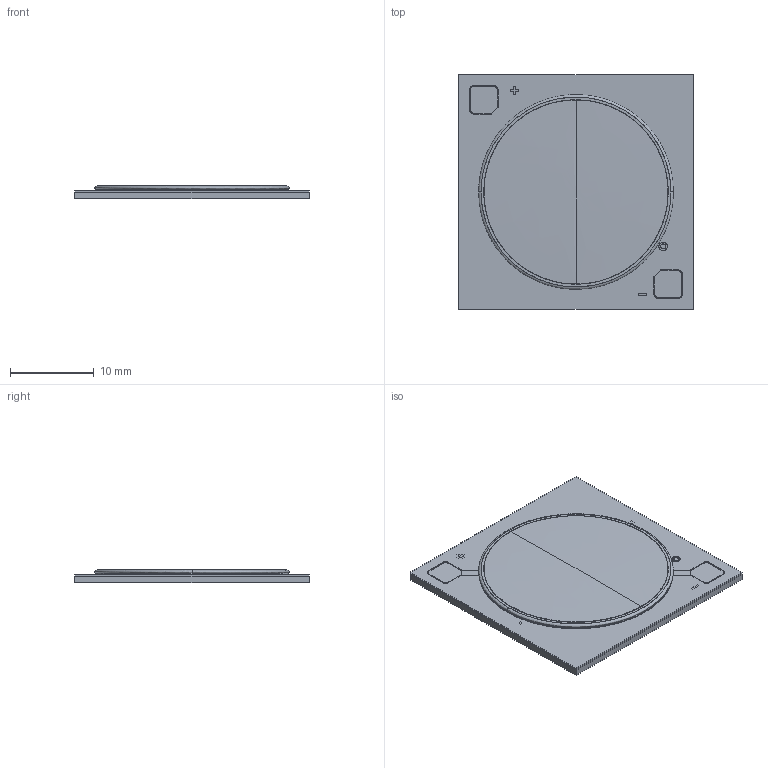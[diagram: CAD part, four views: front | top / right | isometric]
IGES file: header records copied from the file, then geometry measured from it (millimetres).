
Start section: SolidWorks IGES file using analytic representation for surfaces
Global section: file name: C:\Users\deanyi\Desktop\BLXX ENGINEERING\V22 New version\V22_Marketing_Model.IGS; native system: SolidWorks 2014; preprocessor: SolidWorks 2014; author: deanyi; date: 151120.103033; units: millimetre
Bounding box: 28 x 28 x 1.65 mm (x, y, z)
Surface area: 5093.6 mm2 (no closed solid volume)
Topology: 0 solids, 0 shells, 120 faces, 1172 edges, 1170 vertices
Faces by surface type: bspline 93, revolution 27
